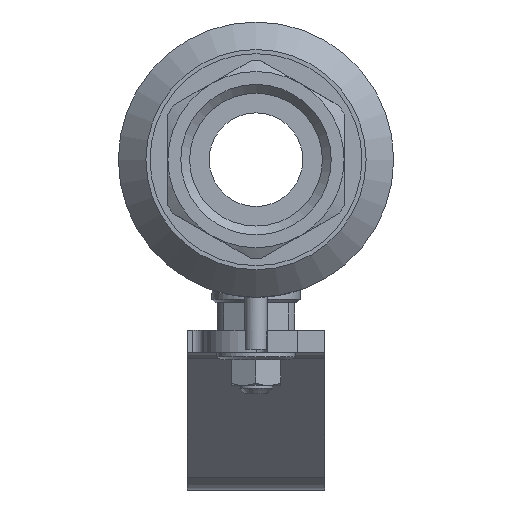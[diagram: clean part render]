
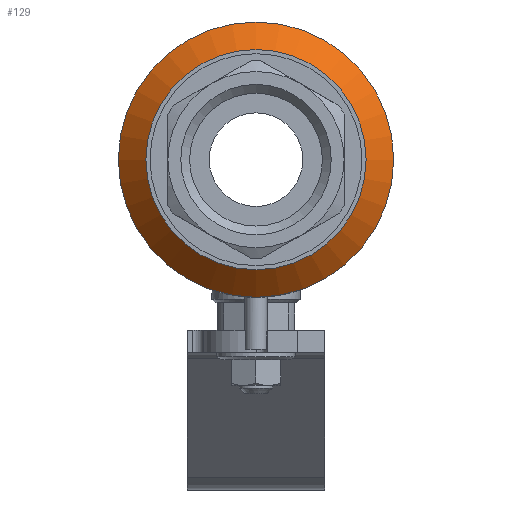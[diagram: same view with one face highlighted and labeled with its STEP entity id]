
A CAD part, left-side view. The second image highlights one B-rep face of the part: STEP entity #129.
In plain terms, the highlighted conical face has half-angle 45 degrees and reference radius 22.5 mm.
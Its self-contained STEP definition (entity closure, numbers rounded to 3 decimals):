
#129=ADVANCED_FACE('',(#1039),#1041,.T.);
#1039=FACE_OUTER_BOUND('',#1040,.T.);
#1040=EDGE_LOOP('',(#2141,#2142,#2143,#2144));
#1041=CONICAL_SURFACE('',#1042,22.5,0.785);
#1042=AXIS2_PLACEMENT_3D('',#1043,#1044,#1045);
#1043=CARTESIAN_POINT('',(-18.5,0.,0.));
#1044=DIRECTION('',(1.,0.,0.));
#1045=DIRECTION('',(0.,1.,0.));
#2141=ORIENTED_EDGE('',*,*,#3261,.T.);
#2142=ORIENTED_EDGE('',*,*,#3250,.T.);
#2143=ORIENTED_EDGE('',*,*,#3261,.F.);
#2144=ORIENTED_EDGE('',*,*,#3262,.F.);
#3250=EDGE_CURVE('',#3612,#3612,#3614,.T.);
#3261=EDGE_CURVE('',#3628,#3612,#3629,.T.);
#3262=EDGE_CURVE('',#3628,#3628,#3630,.T.);
#3612=VERTEX_POINT('',#5076);
#3614=CIRCLE('',#5080,25.);
#3628=VERTEX_POINT('',#5125);
#3629=LINE('',#5126,#5127);
#3630=CIRCLE('',#5129,20.);
#5076=CARTESIAN_POINT('',(-16.,-25.,0.));
#5080=AXIS2_PLACEMENT_3D('',#5081,#5082,#5083);
#5081=CARTESIAN_POINT('',(-16.,0.,0.));
#5082=DIRECTION('',(-1.,-0.,0.));
#5083=DIRECTION('',(0.,-1.,0.));
#5125=CARTESIAN_POINT('',(-21.,-20.,0.));
#5126=CARTESIAN_POINT('',(-21.,-20.,0.));
#5127=VECTOR('',#5128,1.);
#5128=DIRECTION('',(0.707,-0.707,0.));
#5129=AXIS2_PLACEMENT_3D('',#5130,#5131,#5132);
#5130=CARTESIAN_POINT('',(-21.,0.,0.));
#5131=DIRECTION('',(-1.,-0.,-0.));
#5132=DIRECTION('',(0.,-1.,0.));
